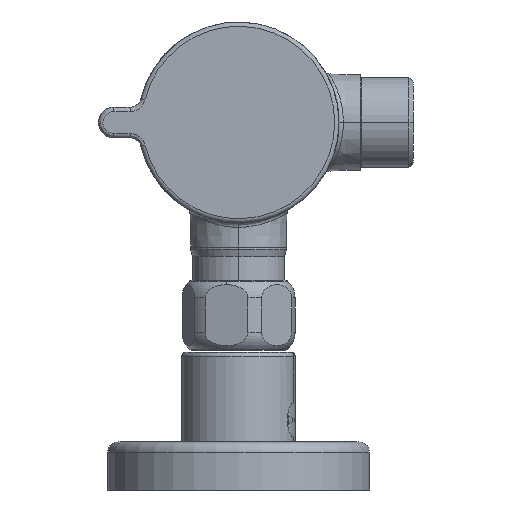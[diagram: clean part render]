
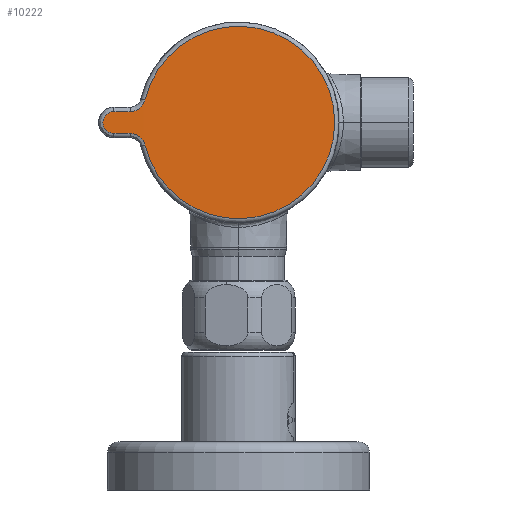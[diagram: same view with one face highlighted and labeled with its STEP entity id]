
A CAD part, left-side view. The second image highlights one B-rep face of the part: STEP entity #10222.
In plain terms, the highlighted spherical face has radius 1000 mm.
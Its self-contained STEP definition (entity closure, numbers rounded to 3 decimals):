
#8810=CARTESIAN_POINT('',(-149.489,24.809,2.503));
#8811=CARTESIAN_POINT('',(-149.491,24.728,2.503));
#8812=CARTESIAN_POINT('',(-149.495,24.566,2.508));
#8813=CARTESIAN_POINT('',(-149.501,24.322,2.534));
#8814=CARTESIAN_POINT('',(-149.507,24.079,2.576));
#8815=CARTESIAN_POINT('',(-149.512,23.84,2.636));
#8816=CARTESIAN_POINT('',(-149.518,23.606,2.713));
#8817=CARTESIAN_POINT('',(-149.523,23.377,2.805));
#8818=CARTESIAN_POINT('',(-149.528,23.156,2.914));
#8819=CARTESIAN_POINT('',(-149.532,22.942,3.038));
#8820=CARTESIAN_POINT('',(-149.536,22.738,3.176));
#8821=CARTESIAN_POINT('',(-149.54,22.544,3.329));
#8822=CARTESIAN_POINT('',(-149.544,22.362,3.495));
#8823=CARTESIAN_POINT('',(-149.547,22.191,3.673));
#8824=CARTESIAN_POINT('',(-149.55,22.034,3.863));
#8825=CARTESIAN_POINT('',(-149.552,21.89,4.063));
#8826=CARTESIAN_POINT('',(-149.554,21.761,4.273));
#8827=CARTESIAN_POINT('',(-149.556,21.647,4.491));
#8828=CARTESIAN_POINT('',(-149.557,21.548,4.716));
#8829=CARTESIAN_POINT('',(-149.557,21.466,4.947));
#8830=CARTESIAN_POINT('',(-149.557,21.423,5.103));
#8831=CARTESIAN_POINT('',(-149.557,21.404,5.182));
#8833=CARTESIAN_POINT('',(-149.557,0.,0.));
#8834=DIRECTION('',(1.,0.,0.));
#8835=DIRECTION('',(0.,0.972,0.235));
#8836=AXIS2_PLACEMENT_3D('',#8833,#8834,#8835);
#8838=CARTESIAN_POINT('',(-149.557,21.404,
-5.182));
#8839=CARTESIAN_POINT('',(-149.557,21.423,
-5.103));
#8840=CARTESIAN_POINT('',(-149.557,21.466,
-4.947));
#8841=CARTESIAN_POINT('',(-149.557,21.549,
-4.716));
#8842=CARTESIAN_POINT('',(-149.556,21.647,
-4.49));
#8843=CARTESIAN_POINT('',(-149.554,21.761,
-4.272));
#8844=CARTESIAN_POINT('',(-149.552,21.891,
-4.062));
#8845=CARTESIAN_POINT('',(-149.55,22.035,
-3.862));
#8846=CARTESIAN_POINT('',(-149.547,22.192,
-3.672));
#8847=CARTESIAN_POINT('',(-149.544,22.363,
-3.494));
#8848=CARTESIAN_POINT('',(-149.54,22.546,
-3.328));
#8849=CARTESIAN_POINT('',(-149.536,22.739,
-3.175));
#8850=CARTESIAN_POINT('',(-149.532,22.944,
-3.037));
#8851=CARTESIAN_POINT('',(-149.528,23.157,
-2.913));
#8852=CARTESIAN_POINT('',(-149.523,23.378,
-2.805));
#8853=CARTESIAN_POINT('',(-149.518,23.607,
-2.712));
#8854=CARTESIAN_POINT('',(-149.512,23.841,
-2.636));
#8855=CARTESIAN_POINT('',(-149.507,24.08,
-2.576));
#8856=CARTESIAN_POINT('',(-149.501,24.322,
-2.534));
#8857=CARTESIAN_POINT('',(-149.495,24.566,
-2.508));
#8858=CARTESIAN_POINT('',(-149.491,24.728,
-2.503));
#8859=CARTESIAN_POINT('',(-149.489,24.809,
-2.503));
#8861=CARTESIAN_POINT('',(850.2,0.,-2.503));
#8862=DIRECTION('',(0.,0.,-1.));
#8863=DIRECTION('',(-1.,0.025,0.));
#8864=AXIS2_PLACEMENT_3D('',#8861,#8862,#8863);
#8866=CARTESIAN_POINT('',(-149.39,28.529,
-2.503));
#8867=CARTESIAN_POINT('',(-149.388,28.593,
-2.502));
#8868=CARTESIAN_POINT('',(-149.384,28.722,
-2.497));
#8869=CARTESIAN_POINT('',(-149.379,28.916,
-2.475));
#8870=CARTESIAN_POINT('',(-149.373,29.109,
-2.437));
#8871=CARTESIAN_POINT('',(-149.368,29.298,
-2.384));
#8872=CARTESIAN_POINT('',(-149.363,29.483,
-2.316));
#8873=CARTESIAN_POINT('',(-149.357,29.662,
-2.234));
#8874=CARTESIAN_POINT('',(-149.353,29.834,
-2.138));
#8875=CARTESIAN_POINT('',(-149.348,29.998,
-2.029));
#8876=CARTESIAN_POINT('',(-149.343,30.153,
-1.907));
#8877=CARTESIAN_POINT('',(-149.339,30.298,
-1.773));
#8878=CARTESIAN_POINT('',(-149.336,30.432,
-1.629));
#8879=CARTESIAN_POINT('',(-149.332,30.554,
-1.474));
#8880=CARTESIAN_POINT('',(-149.329,30.664,
-1.31));
#8881=CARTESIAN_POINT('',(-149.326,30.76,
-1.138));
#8882=CARTESIAN_POINT('',(-149.324,30.843,
-0.959));
#8883=CARTESIAN_POINT('',(-149.322,30.911,
-0.775));
#8884=CARTESIAN_POINT('',(-149.32,30.964,
-0.585));
#8885=CARTESIAN_POINT('',(-149.319,31.003,
-0.392));
#8886=CARTESIAN_POINT('',(-149.319,31.026,
-0.196));
#8887=CARTESIAN_POINT('',(-149.318,31.034,
0.001));
#8888=CARTESIAN_POINT('',(-149.319,31.026,
0.198));
#8889=CARTESIAN_POINT('',(-149.319,31.003,
0.393));
#8890=CARTESIAN_POINT('',(-149.32,30.964,
0.586));
#8891=CARTESIAN_POINT('',(-149.322,30.91,
0.776));
#8892=CARTESIAN_POINT('',(-149.324,30.842,
0.961));
#8893=CARTESIAN_POINT('',(-149.326,30.759,1.14));
#8894=CARTESIAN_POINT('',(-149.329,30.663,1.311));
#8895=CARTESIAN_POINT('',(-149.332,30.553,1.475));
#8896=CARTESIAN_POINT('',(-149.336,30.431,1.63));
#8897=CARTESIAN_POINT('',(-149.339,30.297,1.774));
#8898=CARTESIAN_POINT('',(-149.344,30.152,1.908));
#8899=CARTESIAN_POINT('',(-149.348,29.997,2.029));
#8900=CARTESIAN_POINT('',(-149.353,29.833,2.138));
#8901=CARTESIAN_POINT('',(-149.358,29.661,2.234));
#8902=CARTESIAN_POINT('',(-149.363,29.482,2.316));
#8903=CARTESIAN_POINT('',(-149.368,29.297,2.384));
#8904=CARTESIAN_POINT('',(-149.373,29.108,2.437));
#8905=CARTESIAN_POINT('',(-149.379,28.916,2.475));
#8906=CARTESIAN_POINT('',(-149.384,28.722,2.498));
#8907=CARTESIAN_POINT('',(-149.388,28.593,2.502));
#8908=CARTESIAN_POINT('',(-149.39,28.529,2.503));
#8910=CARTESIAN_POINT('',(850.2,0.,2.503));
#8911=DIRECTION('',(0.,0.,1.));
#8912=DIRECTION('',(-1.,0.029,0.));
#8913=AXIS2_PLACEMENT_3D('',#8910,#8911,#8912);
#9234=VERTEX_POINT('',#8810);
#9235=VERTEX_POINT('',#8831);
#9238=CARTESIAN_POINT('',(-149.557,21.404,
-5.182));
#9239=VERTEX_POINT('',#9238);
#9241=VERTEX_POINT('',#8859);
#9244=CARTESIAN_POINT('',(-149.39,28.529,
-2.503));
#9245=VERTEX_POINT('',#9244);
#9247=VERTEX_POINT('',#8908);
#10209=CARTESIAN_POINT('',(850.2,0.,0.));
#10210=DIRECTION('',(0.,0.,-1.));
#10211=DIRECTION('',(1.,0.023,0.));
#10212=AXIS2_PLACEMENT_3D('',#10209,#10210,#10211);
#10213=SPHERICAL_SURFACE('',#10212,1000.);
#10214=ORIENTED_EDGE('',*,*,#9769,.T.);
#10215=ORIENTED_EDGE('',*,*,#10203,.T.);
#10216=ORIENTED_EDGE('',*,*,#9591,.T.);
#10217=ORIENTED_EDGE('',*,*,#9606,.T.);
#10218=ORIENTED_EDGE('',*,*,#9696,.T.);
#10219=ORIENTED_EDGE('',*,*,#9710,.T.);
#10220=EDGE_LOOP('',(#10214,#10215,#10216,#10217,#10218,#10219));
#10221=FACE_OUTER_BOUND('',#10220,.F.);
#10222=ADVANCED_FACE('',(#10221),#10213,.T.);
#8832=B_SPLINE_CURVE_WITH_KNOTS('',3,(#8810,#8811,#8812,#8813,#8814,#8815,#8816,
#8817,#8818,#8819,#8820,#8821,#8822,#8823,#8824,#8825,#8826,#8827,#8828,#8829,
#8830,#8831),.UNSPECIFIED.,.F.,.F.,(4,1,1,1,1,1,1,1,1,1,1,1,1,1,1,1,1,1,1,4),(
0.,0.053,0.105,0.158,0.211,
0.263,0.316,0.368,0.421,
0.474,0.526,0.579,0.632,
0.684,0.737,0.789,0.842,
0.895,0.947,1.),.UNSPECIFIED.);
#8837=CIRCLE('',#8836,22.022);
#8860=B_SPLINE_CURVE_WITH_KNOTS('',3,(#8838,#8839,#8840,#8841,#8842,#8843,#8844,
#8845,#8846,#8847,#8848,#8849,#8850,#8851,#8852,#8853,#8854,#8855,#8856,#8857,
#8858,#8859),.UNSPECIFIED.,.F.,.F.,(4,1,1,1,1,1,1,1,1,1,1,1,1,1,1,1,1,1,1,4),(
0.,0.053,0.105,0.158,0.211,
0.263,0.316,0.368,0.421,
0.474,0.526,0.579,0.632,
0.684,0.737,0.789,0.842,
0.895,0.947,1.),.UNSPECIFIED.);
#8865=CIRCLE('',#8864,999.997);
#8909=B_SPLINE_CURVE_WITH_KNOTS('',3,(#8866,#8867,#8868,#8869,#8870,#8871,#8872,
#8873,#8874,#8875,#8876,#8877,#8878,#8879,#8880,#8881,#8882,#8883,#8884,#8885,
#8886,#8887,#8888,#8889,#8890,#8891,#8892,#8893,#8894,#8895,#8896,#8897,#8898,
#8899,#8900,#8901,#8902,#8903,#8904,#8905,#8906,#8907,#8908),.UNSPECIFIED.,.F.,
.F.,(4,1,1,1,1,1,1,1,1,1,1,1,1,1,1,1,1,1,1,1,1,1,1,1,1,1,1,1,1,1,1,1,1,1,1,1,1,
1,1,1,4),(0.,0.025,0.05,0.075,0.1,0.125,0.15,0.175,0.2,0.225,
0.25,0.275,0.3,0.325,0.35,0.375,0.4,0.425,0.45,0.475,0.5,
0.525,0.55,0.575,0.6,0.625,0.65,0.675,0.7,0.725,0.75,
0.775,0.8,0.825,0.85,0.875,0.9,0.925,0.95,0.975,1.),
.UNSPECIFIED.);
#8914=CIRCLE('',#8913,999.997);
#9591=EDGE_CURVE('',#9239,#9241,#8860,.T.);
#9606=EDGE_CURVE('',#9241,#9245,#8865,.T.);
#9696=EDGE_CURVE('',#9245,#9247,#8909,.T.);
#9710=EDGE_CURVE('',#9247,#9234,#8914,.T.);
#9769=EDGE_CURVE('',#9234,#9235,#8832,.T.);
#10203=EDGE_CURVE('',#9235,#9239,#8837,.T.);
